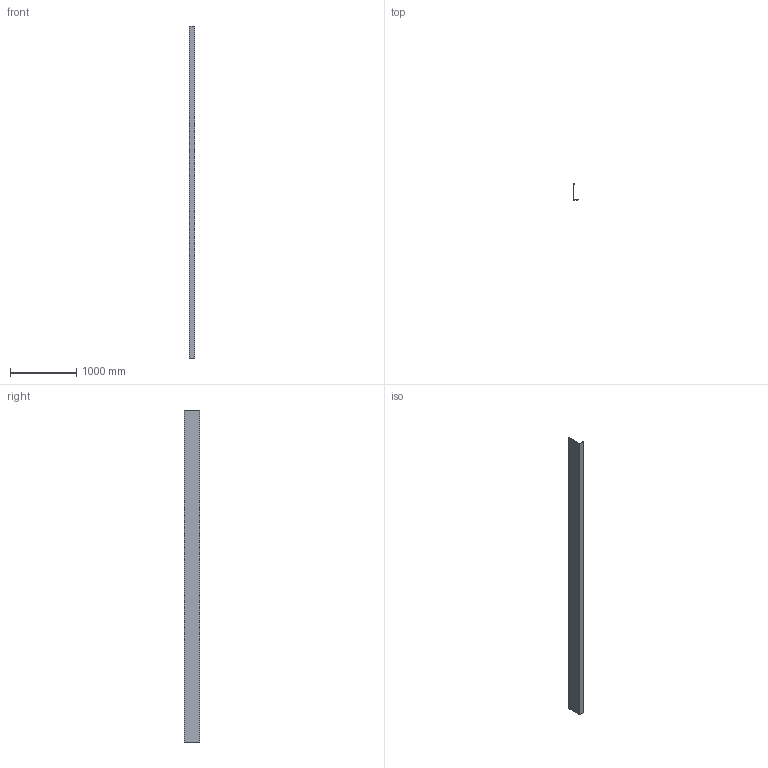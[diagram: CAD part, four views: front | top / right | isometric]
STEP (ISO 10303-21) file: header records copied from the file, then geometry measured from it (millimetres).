
FILE_DESCRIPTION(/* description */ ('TURBOFLEX TL-3621 Covercap L=5000mm aluminum mill finish'),/* implementation_level */ '2;1');
FILE_NAME(/* name */ '1036212051x.stp',/* time_stamp */ '2025-11-13T10:30:13+01:00',/* author */ ('nethmini'),/* organization */ (''),/* preprocessor_version */ 'ST-DEVELOPER v19.2',/* originating_system */ 'Autodesk Inventor 2024',/* authorisation */ '');
FILE_SCHEMA (('AUTOMOTIVE_DESIGN { 1 0 10303 214 3 1 1 }'));
Length unit declared in the file: millimetre
Products named in the file (1): 10362120510
Bounding box: 75.94 x 234.85 x 5000 mm (x, y, z)
Volume: 3181020.1 mm3; surface area: 3194850.9 mm2
Topology: 1 solids, 1 shells, 28 faces, 78 edges, 52 vertices
Faces by surface type: plane 15, cylinder 13
Entity records: 951 total; most frequent: DIRECTION 162, CARTESIAN_POINT 159, ORIENTED_EDGE 156, EDGE_CURVE 78, AXIS2_PLACEMENT_3D 55, LINE 52, VECTOR 52, VERTEX_POINT 52
